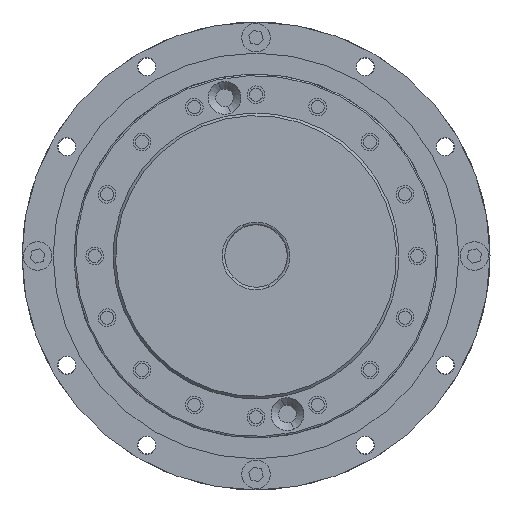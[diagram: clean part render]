
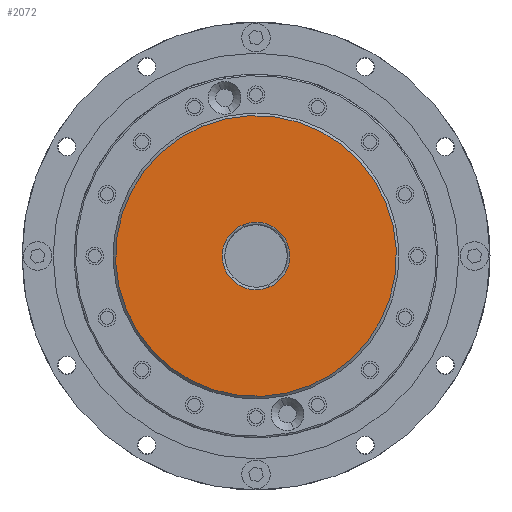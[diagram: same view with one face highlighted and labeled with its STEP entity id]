
A CAD part, left-side view. The second image highlights one B-rep face of the part: STEP entity #2072.
In plain terms, the highlighted planar face has unit normal (-1, 0, 0).
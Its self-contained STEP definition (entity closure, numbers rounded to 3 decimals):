
#940 = AXIS2_PLACEMENT_3D ( 'NONE', #6598, #25158, #23273 ) ;
#1061 = PLANE ( 'NONE',  #8957 ) ;
#1512 = CIRCLE ( 'NONE', #8572, 6.5 ) ;
#1602 = VERTEX_POINT ( 'NONE', #22832 ) ;
#1895 = DIRECTION ( 'NONE',  ( 0., -0.383, -0.924 ) ) ;
#2043 = VERTEX_POINT ( 'NONE', #22793 ) ;
#2072 = ADVANCED_FACE ( 'NONE', ( #22644, #10531 ), #1061, .T. ) ;
#2431 = DIRECTION ( 'NONE',  ( 1., 0., 0. ) ) ;
#2459 = DIRECTION ( 'NONE',  ( 0., -0.383, -0.924 ) ) ;
#2975 = ORIENTED_EDGE ( 'NONE', *, *, #22851, .T. ) ;
#6598 = CARTESIAN_POINT ( 'NONE',  ( -38., 0., 0. ) ) ;
#7103 = DIRECTION ( 'NONE',  ( 1., 0., 0. ) ) ;
#8572 = AXIS2_PLACEMENT_3D ( 'NONE', #19130, #2431, #28876 ) ;
#8957 = AXIS2_PLACEMENT_3D ( 'NONE', #27655, #25298, #20121 ) ;
#9152 = ORIENTED_EDGE ( 'NONE', *, *, #19527, .T. ) ;
#9174 = VERTEX_POINT ( 'NONE', #14827 ) ;
#10531 = FACE_OUTER_BOUND ( 'NONE', #30580, .T. ) ;
#12772 = AXIS2_PLACEMENT_3D ( 'NONE', #14915, #26551, #2459 ) ;
#13131 = CIRCLE ( 'NONE', #25662, 6.5 ) ;
#14776 = ORIENTED_EDGE ( 'NONE', *, *, #24549, .T. ) ;
#14827 = CARTESIAN_POINT ( 'NONE',  ( -38., -2.487, -6.005 ) ) ;
#14915 = CARTESIAN_POINT ( 'NONE',  ( -38., 0., 0. ) ) ;
#15724 = EDGE_CURVE ( 'NONE', #9174, #19601, #1512, .T. ) ;
#18799 = CIRCLE ( 'NONE', #12772, 27. ) ;
#19130 = CARTESIAN_POINT ( 'NONE',  ( -38., 0., 0. ) ) ;
#19527 = EDGE_CURVE ( 'NONE', #1602, #2043, #18799, .T. ) ;
#19601 = VERTEX_POINT ( 'NONE', #20983 ) ;
#19995 = ORIENTED_EDGE ( 'NONE', *, *, #15724, .T. ) ;
#20121 = DIRECTION ( 'NONE',  ( 0., -0.383, -0.924 ) ) ;
#20983 = CARTESIAN_POINT ( 'NONE',  ( -38., 2.487, 6.005 ) ) ;
#22553 = EDGE_LOOP ( 'NONE', ( #19995, #14776 ) ) ;
#22644 = FACE_BOUND ( 'NONE', #22553, .T. ) ;
#22793 = CARTESIAN_POINT ( 'NONE',  ( -38., -10.332, -24.945 ) ) ;
#22832 = CARTESIAN_POINT ( 'NONE',  ( -38., 10.332, 24.945 ) ) ;
#22851 = EDGE_CURVE ( 'NONE', #2043, #1602, #30593, .T. ) ;
#23273 = DIRECTION ( 'NONE',  ( 0., -0.383, -0.924 ) ) ;
#24549 = EDGE_CURVE ( 'NONE', #19601, #9174, #13131, .T. ) ;
#25158 = DIRECTION ( 'NONE',  ( -1., 0., 0. ) ) ;
#25298 = DIRECTION ( 'NONE',  ( -1., 0., 0. ) ) ;
#25662 = AXIS2_PLACEMENT_3D ( 'NONE', #30539, #7103, #1895 ) ;
#26551 = DIRECTION ( 'NONE',  ( -1., 0., 0. ) ) ;
#27655 = CARTESIAN_POINT ( 'NONE',  ( -38., 0., 0. ) ) ;
#28876 = DIRECTION ( 'NONE',  ( 0., -0.383, -0.924 ) ) ;
#30539 = CARTESIAN_POINT ( 'NONE',  ( -38., 0., 0. ) ) ;
#30580 = EDGE_LOOP ( 'NONE', ( #9152, #2975 ) ) ;
#30593 = CIRCLE ( 'NONE', #940, 27. ) ;
